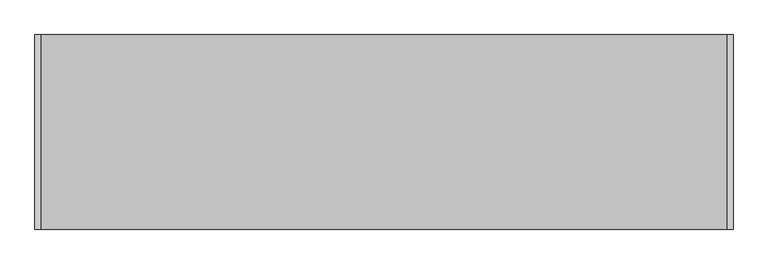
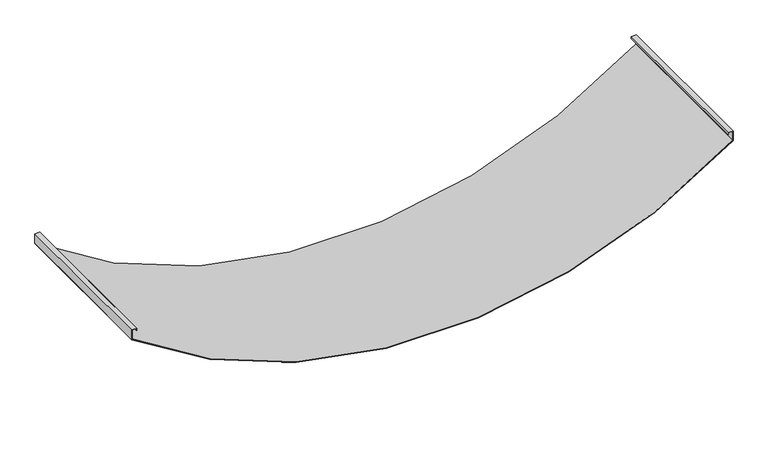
"""IFC4 building model written with IfcOpenShell, lengths in millimetres: proxy geometry, durlum_S7_DOMUS_panel : durlum_S7_DOMUS_panel_wall_width_cut."""

from ifc_helpers import new_model, si_unit, point, frame, frame_2d, origin, place, context, project, spatial, polyline, circle_curve, trimmed, segment, composite_curve, outline, extrude, source, transform, mapped, element, save


def generic_models_00a943c8(model_context):
    return source(origin(), model_context, "Body", "SweptSolid", [
        extrude(outline(composite_curve([segment(polyline([(0.4984323, 895.0), (1.7508749, 895.0)]), True, "CONTINUOUS"), segment(trimmed(circle_curve(frame_2d((1188.0266667, 0.0)), 1486.0266667), [point((1.7508749, 895.0))], [point((1.7508749, -895.0))], True, "CARTESIAN"), True, "CONTINUOUS"), segment(polyline([(1.7508749, -895.0), (0.4984323, -895.0)]), True, "CONTINUOUS"), segment(trimmed(circle_curve(frame_2d((1188.0266667, 0.0)), 1487.0266667), [point((0.4984323, -895.0))], [point((0.4984323, 895.0))], False, "CARTESIAN"), True, "CONTINUOUS")], self_intersect=False)), frame((0.0, -249.75, 0.0), z_axis=(0.0, 1.0, 0.0), x_axis=(0.0, 0.0, 1.0)), (0.0, 0.0, 1.0), 499.5),
        extrude(outline(polyline([(31.0, -896.0), (0.0, -896.0), (0.0, -895.0), (30.0, -895.0), (30.0, -882.0), (24.5, -882.0), (24.5, -881.0), (31.0, -881.0), (31.0, -896.0)])), frame((0.0, -249.75, 0.0), z_axis=(0.0, 1.0, 0.0), x_axis=(0.0, 0.0, 1.0)), (0.0, 0.0, 1.0), 499.5),
        extrude(outline(polyline([(31.0, 896.0), (31.0, 881.0), (24.5, 881.0), (24.5, 882.0), (30.0, 882.0), (30.0, 895.0), (0.0, 895.0), (0.0, 896.0), (31.0, 896.0)])), frame((0.0, -249.75, 0.0), z_axis=(0.0, 1.0, 0.0), x_axis=(0.0, 0.0, 1.0)), (0.0, 0.0, 1.0), 499.5),
        extrude(outline(composite_curve([segment(trimmed(circle_curve(frame_2d((1188.0266667, 0.0)), 1488.0266667), [point((0.0, -896.0))], [point((0.0, 896.0))], False, "CARTESIAN"), True, "CONTINUOUS"), segment(polyline([(0.0, 896.0), (1.2527592, 896.0)]), True, "CONTINUOUS"), segment(trimmed(circle_curve(frame_2d((1188.0266667, 0.0)), 1487.0266667), [point((1.2527592, 896.0))], [point((1.2527592, -896.0))], True, "CARTESIAN"), True, "CONTINUOUS"), segment(polyline([(1.2527592, -896.0), (0.0, -896.0)]), True, "CONTINUOUS")], self_intersect=False)), frame((0.0, -249.75, 0.0), z_axis=(0.0, 1.0, 0.0), x_axis=(0.0, 0.0, 1.0)), (0.0, 0.0, 1.0), 499.5),
    ])


if __name__ == "__main__":
    model = new_model("IFC4")
    model_context = context("Model", 3, world=origin())
    ifc_project = project(units=[si_unit("LENGTHUNIT", "METRE", prefix="MILLI")], contexts=[model_context])
    site = spatial("IfcSite", under=ifc_project)
    building = spatial("IfcBuilding", under=site)
    placement = place(None, origin())
    generic_models_shape = generic_models_00a943c8(model_context)
    element("IfcBuildingElementProxy", 1, Name="durlum_S7_DOMUS_panel : durlum_S7_DOMUS_panel_wall_width_cut", ObjectType="durlum_S7_DOMUS_panel : durlum_S7_DOMUS_panel_wall_width_cut", at=placement, inside=building, context=model_context, shape_type="MappedRepresentation", body=[
        mapped(generic_models_shape, transform((0.0, 0.0, 0.0), x_axis=(1.0, 0.0, 0.0), y_axis=(0.0, 1.0, 0.0), z_axis=(0.0, 0.0, 1.0))),
    ])
    save(model, "model.ifc")
